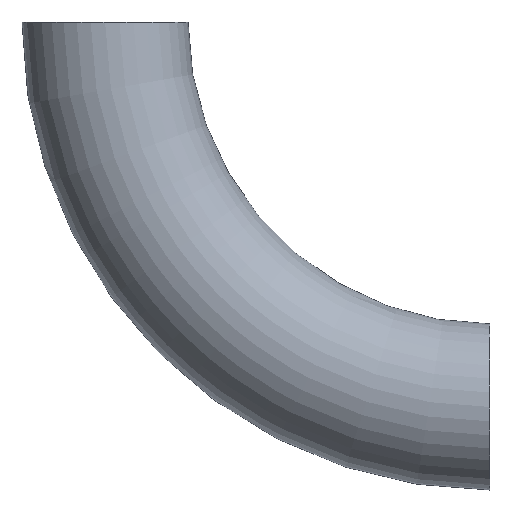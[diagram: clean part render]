
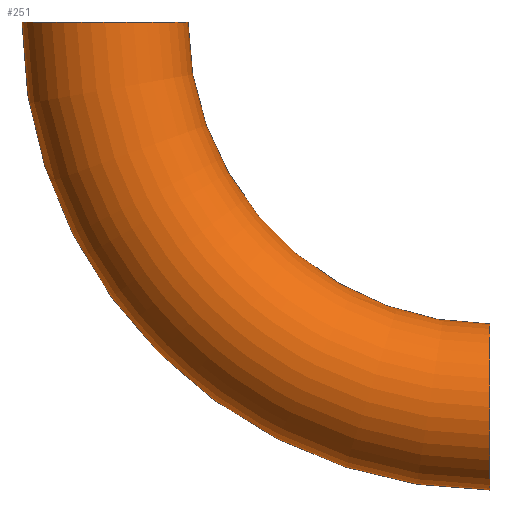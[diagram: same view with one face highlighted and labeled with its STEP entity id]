
A CAD part, front view. The second image highlights one B-rep face of the part: STEP entity #251.
In plain terms, the highlighted toroidal (fillet/blend) face has major radius 390 mm and minor radius 84.15 mm.
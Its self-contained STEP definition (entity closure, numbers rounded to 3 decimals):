
#11 = CARTESIAN_POINT ( 'NONE',  ( -390., 0., 0. ) ) ;
#15 = EDGE_CURVE ( 'NONE', #205, #110, #117, .T. ) ;
#18 = CARTESIAN_POINT ( 'NONE',  ( 0., 0., 0. ) ) ;
#21 = CIRCLE ( 'NONE', #134, 84.15 ) ;
#26 = EDGE_LOOP ( 'NONE', ( #119, #191, #148, #211 ) ) ;
#30 = DIRECTION ( 'NONE',  ( 0., 0., 1. ) ) ;
#31 = CARTESIAN_POINT ( 'NONE',  ( 0., 0., -474.15 ) ) ;
#33 = CARTESIAN_POINT ( 'NONE',  ( 0., 0., 0. ) ) ;
#36 = EDGE_CURVE ( 'NONE', #139, #47, #21, .T. ) ;
#47 = VERTEX_POINT ( 'NONE', #86 ) ;
#51 = CARTESIAN_POINT ( 'NONE',  ( -305.85, 0., 0. ) ) ;
#61 = TOROIDAL_SURFACE ( 'NONE', #105, 390., 84.15 ) ;
#63 = EDGE_CURVE ( 'NONE', #47, #110, #89, .T. ) ;
#86 = CARTESIAN_POINT ( 'NONE',  ( 0., 0., -305.85 ) ) ;
#88 = CARTESIAN_POINT ( 'NONE',  ( 0., 0., -390. ) ) ;
#89 = CIRCLE ( 'NONE', #145, 305.85 ) ;
#91 = DIRECTION ( 'NONE',  ( 0., 0., 1. ) ) ;
#92 = CARTESIAN_POINT ( 'NONE',  ( -474.15, 0., 0. ) ) ;
#97 = EDGE_CURVE ( 'NONE', #139, #205, #229, .T. ) ;
#105 = AXIS2_PLACEMENT_3D ( 'NONE', #18, #249, #176 ) ;
#110 = VERTEX_POINT ( 'NONE', #51 ) ;
#117 = CIRCLE ( 'NONE', #203, 84.15 ) ;
#119 = ORIENTED_EDGE ( 'NONE', *, *, #97, .F. ) ;
#120 = AXIS2_PLACEMENT_3D ( 'NONE', #166, #227, #247 ) ;
#130 = DIRECTION ( 'NONE',  ( 1., 0., 0. ) ) ;
#134 = AXIS2_PLACEMENT_3D ( 'NONE', #88, #147, #30 ) ;
#139 = VERTEX_POINT ( 'NONE', #31 ) ;
#145 = AXIS2_PLACEMENT_3D ( 'NONE', #33, #209, #91 ) ;
#147 = DIRECTION ( 'NONE',  ( -1., 0., 0. ) ) ;
#148 = ORIENTED_EDGE ( 'NONE', *, *, #63, .T. ) ;
#151 = FACE_OUTER_BOUND ( 'NONE', #26, .T. ) ;
#166 = CARTESIAN_POINT ( 'NONE',  ( 0., 0., 0. ) ) ;
#176 = DIRECTION ( 'NONE',  ( 0., 0., 1. ) ) ;
#191 = ORIENTED_EDGE ( 'NONE', *, *, #36, .T. ) ;
#203 = AXIS2_PLACEMENT_3D ( 'NONE', #11, #207, #130 ) ;
#205 = VERTEX_POINT ( 'NONE', #92 ) ;
#207 = DIRECTION ( 'NONE',  ( 0., 0., 1. ) ) ;
#209 = DIRECTION ( 'NONE',  ( 0., 1., 0. ) ) ;
#211 = ORIENTED_EDGE ( 'NONE', *, *, #15, .F. ) ;
#227 = DIRECTION ( 'NONE',  ( 0., 1., 0. ) ) ;
#229 = CIRCLE ( 'NONE', #120, 474.15 ) ;
#247 = DIRECTION ( 'NONE',  ( 0., 0., 1. ) ) ;
#249 = DIRECTION ( 'NONE',  ( 0., 1., 0. ) ) ;
#251 = ADVANCED_FACE ( 'NONE', ( #151 ), #61, .T. ) ;
